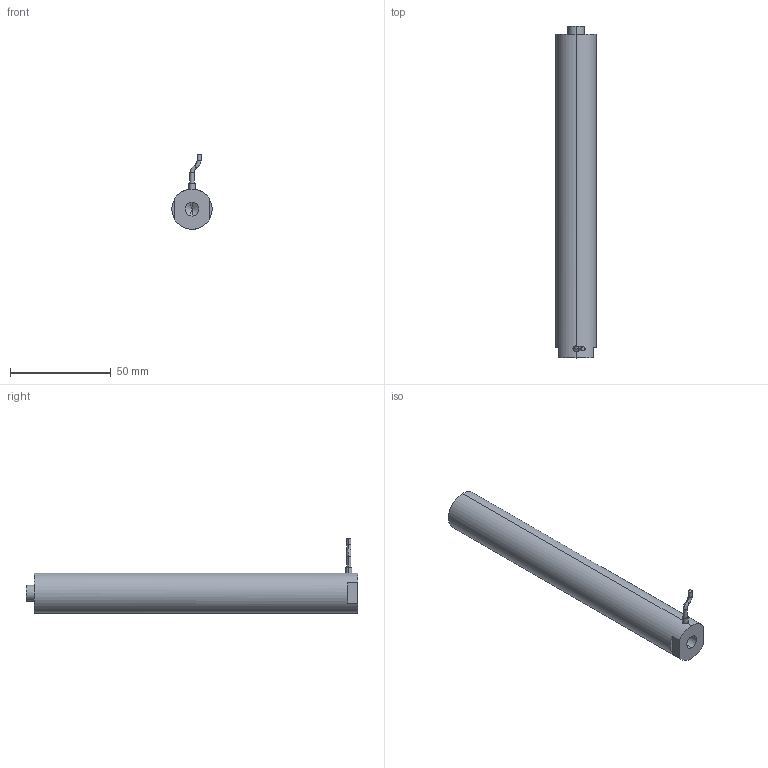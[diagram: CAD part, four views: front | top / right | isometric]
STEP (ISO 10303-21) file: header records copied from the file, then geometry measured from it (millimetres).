
FILE_DESCRIPTION (( 'STEP AP203' ), '1' );
FILE_NAME ('ﾆｽﾍｷﾊｽ160VS20.STEP', '2021-07-08T05:40:09', ( 'ﾎ｢ﾈ橆ﾃｻｧ' ), ( 'ﾎ｢ﾈ晥ｫﾋｾ' ), 'SwSTEP 2.0', 'SolidWorks 2016', '' );
FILE_SCHEMA (( 'CONFIG_CONTROL_DESIGN' ));
Products named in the file (1): ƽͷʽ160VS20
Bounding box: 20 x 165 x 37.06 mm (x, y, z)
Volume: 50327.9 mm3; surface area: 11204.1 mm2
Topology: 1 solids, 1 shells, 937 faces, 2536 edges, 1685 vertices
Faces by surface type: bspline 521, plane 305, cylinder 105, torus 4, cone 2
Entity records: 45303 total; most frequent: CARTESIAN_POINT 26364, ORIENTED_EDGE 5060, EDGE_CURVE 2530, DIRECTION 1906, B_SPLINE_CURVE_WITH_KNOTS 1722, VERTEX_POINT 1683, EDGE_LOOP 1025, ADVANCED_FACE 937
